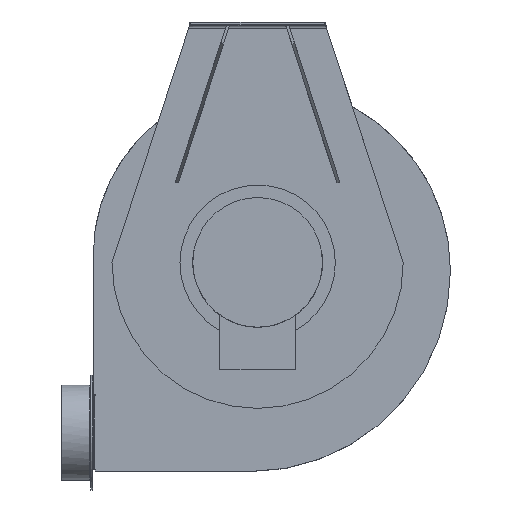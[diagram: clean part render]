
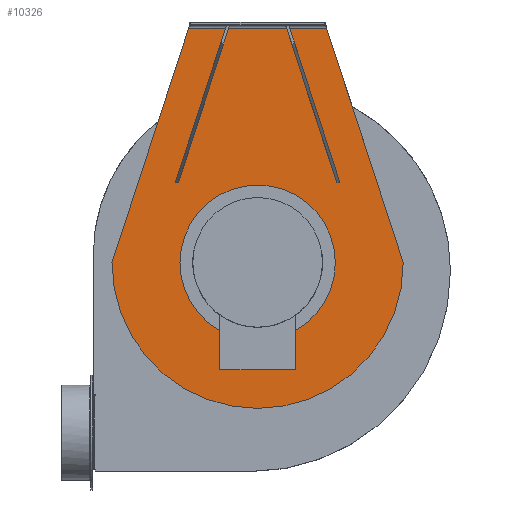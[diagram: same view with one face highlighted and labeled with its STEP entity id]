
A CAD part, top view. The second image highlights one B-rep face of the part: STEP entity #10326.
In plain terms, the highlighted planar face has unit normal (0, 0, 1).
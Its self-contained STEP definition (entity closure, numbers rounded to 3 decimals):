
#61=FACE_BOUND('',#3790,.T.);
#62=FACE_BOUND('',#3791,.T.);
#63=FACE_BOUND('',#3792,.T.);
#1059=LINE('',#24602,#1734);
#1067=LINE('',#24626,#1742);
#1075=LINE('',#24649,#1750);
#1084=LINE('',#24671,#1759);
#1091=LINE('',#24688,#1766);
#1094=LINE('',#24694,#1769);
#1100=LINE('',#24720,#1775);
#1110=LINE('',#24743,#1785);
#1114=LINE('',#24759,#1789);
#1115=LINE('',#24761,#1790);
#1116=LINE('',#24764,#1791);
#1734=VECTOR('',#11757,10.);
#1742=VECTOR('',#11775,10.);
#1750=VECTOR('',#11799,10.);
#1759=VECTOR('',#11824,10.);
#1766=VECTOR('',#11837,10.);
#1769=VECTOR('',#11842,10.);
#1775=VECTOR('',#11868,10.);
#1785=VECTOR('',#11894,10.);
#1789=VECTOR('',#11908,10.);
#1790=VECTOR('',#11909,10.);
#1791=VECTOR('',#11912,10.);
#3195=FACE_OUTER_BOUND('',#3789,.T.);
#3789=EDGE_LOOP('',(#9496,#9497,#9498,#9499));
#3790=EDGE_LOOP('',(#9500));
#3791=EDGE_LOOP('',(#9501,#9502,#9503,#9504));
#3792=EDGE_LOOP('',(#9505,#9506,#9507,#9508));
#3979=CIRCLE('',#10593,80.);
#3998=CIRCLE('',#10651,150.);
#4960=VERTEX_POINT('',#24577);
#4965=VERTEX_POINT('',#24600);
#4966=VERTEX_POINT('',#24601);
#4977=VERTEX_POINT('',#24624);
#4984=VERTEX_POINT('',#24648);
#4995=VERTEX_POINT('',#24685);
#4996=VERTEX_POINT('',#24687);
#4998=VERTEX_POINT('',#24693);
#5008=VERTEX_POINT('',#24719);
#5019=VERTEX_POINT('',#24757);
#5020=VERTEX_POINT('',#24758);
#5021=VERTEX_POINT('',#24760);
#5022=VERTEX_POINT('',#24762);
#6448=EDGE_CURVE('',#4960,#4960,#3979,.T.);
#6457=EDGE_CURVE('',#4965,#4966,#1059,.T.);
#6469=EDGE_CURVE('',#4966,#4977,#1067,.T.);
#6481=EDGE_CURVE('',#4977,#4984,#1075,.T.);
#6493=EDGE_CURVE('',#4984,#4965,#1084,.T.);
#6500=EDGE_CURVE('',#4996,#4995,#1091,.T.);
#6503=EDGE_CURVE('',#4998,#4996,#1094,.T.);
#6516=EDGE_CURVE('',#4995,#5008,#1100,.T.);
#6529=EDGE_CURVE('',#5008,#4998,#1110,.T.);
#6535=EDGE_CURVE('',#5019,#5020,#1114,.T.);
#6536=EDGE_CURVE('',#5021,#5020,#1115,.T.);
#6537=EDGE_CURVE('',#5022,#5021,#3998,.T.);
#6538=EDGE_CURVE('',#5019,#5022,#1116,.T.);
#9496=ORIENTED_EDGE('',*,*,#6535,.T.);
#9497=ORIENTED_EDGE('',*,*,#6536,.F.);
#9498=ORIENTED_EDGE('',*,*,#6537,.F.);
#9499=ORIENTED_EDGE('',*,*,#6538,.F.);
#9500=ORIENTED_EDGE('',*,*,#6448,.T.);
#9501=ORIENTED_EDGE('',*,*,#6457,.T.);
#9502=ORIENTED_EDGE('',*,*,#6469,.T.);
#9503=ORIENTED_EDGE('',*,*,#6481,.T.);
#9504=ORIENTED_EDGE('',*,*,#6493,.T.);
#9505=ORIENTED_EDGE('',*,*,#6503,.T.);
#9506=ORIENTED_EDGE('',*,*,#6500,.T.);
#9507=ORIENTED_EDGE('',*,*,#6516,.T.);
#9508=ORIENTED_EDGE('',*,*,#6529,.T.);
#9791=PLANE('',#10650);
#10326=ADVANCED_FACE('',(#3195,#61,#62,#63),#9791,.F.);
#10593=AXIS2_PLACEMENT_3D('',#24578,#11729,#11730);
#10650=AXIS2_PLACEMENT_3D('',#24756,#11906,#11907);
#10651=AXIS2_PLACEMENT_3D('',#24763,#11910,#11911);
#11729=DIRECTION('center_axis',(0.,0.,
-1.));
#11730=DIRECTION('ref_axis',(-1.,0.,0.));
#11757=DIRECTION('',(0.309,0.951,0.));
#11775=DIRECTION('',(0.951,-0.309,0.));
#11799=DIRECTION('',(-0.309,-0.951,0.));
#11824=DIRECTION('',(-0.951,0.309,0.));
#11837=DIRECTION('',(0.951,0.309,0.));
#11842=DIRECTION('',(-0.309,0.951,0.));
#11868=DIRECTION('',(0.309,-0.951,0.));
#11894=DIRECTION('',(-0.951,-0.309,0.));
#11906=DIRECTION('center_axis',(0.,0.,
-1.));
#11907=DIRECTION('ref_axis',(0.,1.,0.));
#11908=DIRECTION('',(-1.,0.,0.));
#11909=DIRECTION('',(0.31,0.951,0.));
#11910=DIRECTION('center_axis',(0.,0.,
-1.));
#11911=DIRECTION('ref_axis',(-1.,0.,0.));
#11912=DIRECTION('',(0.31,-0.951,0.));
#24577=CARTESIAN_POINT('',(1186.595,1342.761,88.));
#24578=CARTESIAN_POINT('Origin',(1106.595,1342.761,88.));
#24600=CARTESIAN_POINT('',(1022.229,1426.28,88.));
#24601=CARTESIAN_POINT('',(1073.062,1582.729,88.));
#24602=CARTESIAN_POINT('',(1037.428,1473.057,88.));
#24624=CARTESIAN_POINT('',(1075.916,1581.802,88.));
#24626=CARTESIAN_POINT('',(1117.675,1568.233,88.));
#24648=CARTESIAN_POINT('',(1025.082,1425.353,88.));
#24649=CARTESIAN_POINT('',(1040.281,1472.13,88.));
#24671=CARTESIAN_POINT('',(1025.082,1425.353,88.));
#24685=CARTESIAN_POINT('',(1140.052,1582.729,88.));
#24687=CARTESIAN_POINT('',(1137.199,1581.802,88.));
#24688=CARTESIAN_POINT('',(1096.866,1568.697,88.));
#24693=CARTESIAN_POINT('',(1188.032,1425.353,88.));
#24694=CARTESIAN_POINT('',(1172.833,1472.13,88.));
#24719=CARTESIAN_POINT('',(1190.886,1426.28,88.));
#24720=CARTESIAN_POINT('',(1175.687,1473.058,88.));
#24743=CARTESIAN_POINT('',(1190.886,1426.28,88.));
#24756=CARTESIAN_POINT('Origin',(1106.557,1391.926,88.));
#24757=CARTESIAN_POINT('',(1177.665,1584.33,88.));
#24758=CARTESIAN_POINT('',(1035.449,1584.33,88.));
#24759=CARTESIAN_POINT('',(1071.003,1584.33,88.));
#24760=CARTESIAN_POINT('',(956.557,1342.723,88.));
#24761=CARTESIAN_POINT('',(1036.557,1587.723,88.));
#24762=CARTESIAN_POINT('',(1256.557,1342.723,88.));
#24763=CARTESIAN_POINT('Origin',(1106.557,1342.723,88.));
#24764=CARTESIAN_POINT('',(1256.557,1342.723,88.));
